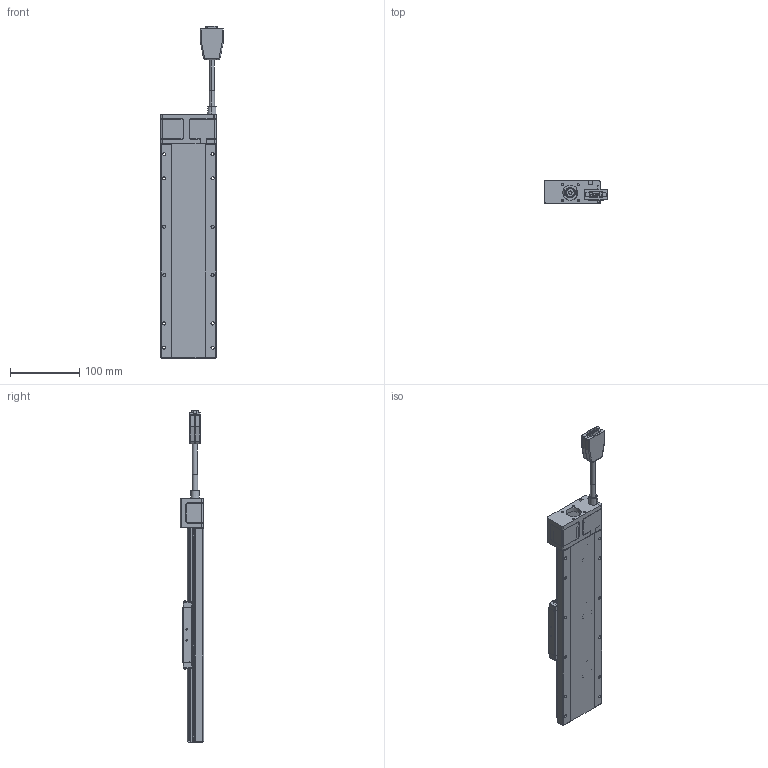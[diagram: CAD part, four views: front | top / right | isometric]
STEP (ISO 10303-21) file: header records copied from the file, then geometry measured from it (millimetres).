
FILE_DESCRIPTION (( 'STEP AP203' ), '1' );
FILE_NAME ('CXN80200-S2?N(µL°¨¹F).S', '2024-01-05T05:17:12', ( '' ), ( '' ), 'SwSTEP 2.0', 'SolidWorks 2019', '' );
FILE_SCHEMA (( 'CONFIG_CONTROL_DESIGN' ));
Length unit declared in the file: millimetre
Products named in the file (3): CXN80200-S2?N(無馬達); Group2^CXN80200-S2?N(28框無馬達)_defeature_GMT; Group1^CXN80200-S2?N(28框無馬達)_defeature_GMT
Assembly tree (2 placements, depth 2):
  CXN80200-S2?N(無馬達)
    Group1^CXN80200-S2?N(28框無馬達)_defeature_GMT
    Group2^CXN80200-S2?N(28框無馬達)_defeature_GMT
Bounding box: 90.5 x 33.5 x 480.6 mm (x, y, z)
Volume: 59951.5 mm3; surface area: 160805.4 mm2
Topology: 21 solids, 24 shells, 4173 faces, 10644 edges, 6522 vertices
Faces by surface type: plane 1584, cylinder 1210, cone 498, bspline 431, torus 268, sphere 182
Entity records: 144272 total; most frequent: CARTESIAN_POINT 44917, ORIENTED_EDGE 20894, DIRECTION 20745, EDGE_CURVE 10447, AXIS2_PLACEMENT_3D 7653, VERTEX_POINT 6479, LINE 5439, VECTOR 5439
